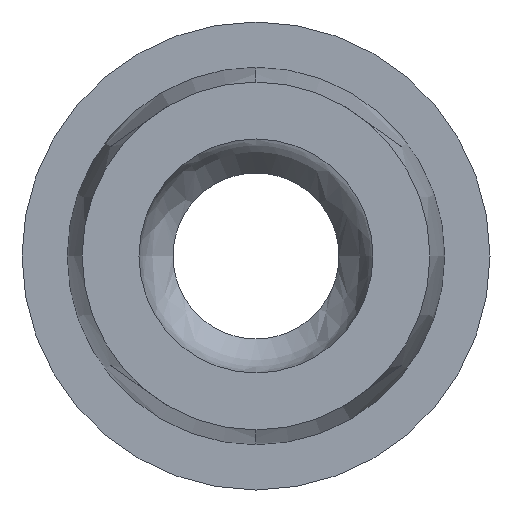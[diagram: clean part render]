
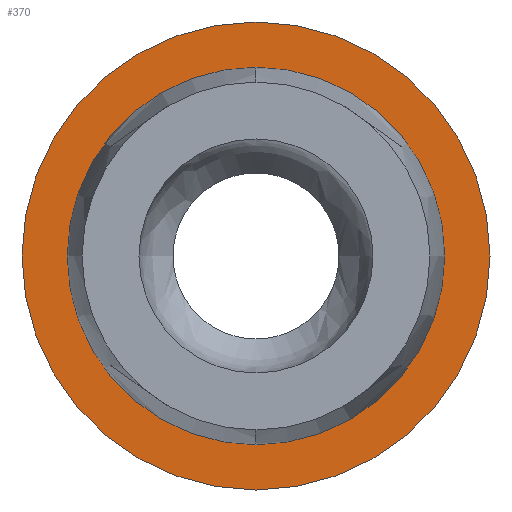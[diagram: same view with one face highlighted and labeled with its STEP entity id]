
A CAD part, left-side view. The second image highlights one B-rep face of the part: STEP entity #370.
In plain terms, the highlighted planar face has unit normal (-1, 0, 0).
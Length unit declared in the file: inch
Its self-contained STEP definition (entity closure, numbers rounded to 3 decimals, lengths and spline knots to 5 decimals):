
#7 = EDGE_CURVE ( 'NONE', #153, #327, #192, .T. ) ;
#20 = AXIS2_PLACEMENT_3D ( 'NONE', #382, #141, #424 ) ;
#24 = DIRECTION ( 'NONE',  ( -1., 0., 0. ) ) ;
#25 = ORIENTED_EDGE ( 'NONE', *, *, #7, .F. ) ;
#56 = FACE_OUTER_BOUND ( 'NONE', #63, .T. ) ;
#63 = EDGE_LOOP ( 'NONE', ( #126, #371 ) ) ;
#64 = CARTESIAN_POINT ( 'NONE',  ( -1., 0., 0.3025 ) ) ;
#67 = CIRCLE ( 'NONE', #272, 0.3025 ) ;
#78 = EDGE_CURVE ( 'NONE', #499, #491, #238, .T. ) ;
#97 = PLANE ( 'NONE',  #305 ) ;
#116 = CARTESIAN_POINT ( 'NONE',  ( -1., 0., 0. ) ) ;
#126 = ORIENTED_EDGE ( 'NONE', *, *, #78, .T. ) ;
#133 = DIRECTION ( 'NONE',  ( -1., 0., 0. ) ) ;
#134 = DIRECTION ( 'NONE',  ( 0., 0., 1. ) ) ;
#141 = DIRECTION ( 'NONE',  ( -1., 0., 0. ) ) ;
#152 = DIRECTION ( 'NONE',  ( 0., 0., 1. ) ) ;
#153 = VERTEX_POINT ( 'NONE', #64 ) ;
#160 = FACE_BOUND ( 'NONE', #331, .T. ) ;
#170 = CARTESIAN_POINT ( 'NONE',  ( -1., 0., -0.3025 ) ) ;
#192 = CIRCLE ( 'NONE', #368, 0.3025 ) ;
#207 = CIRCLE ( 'NONE', #417, 0.375 ) ;
#213 = CARTESIAN_POINT ( 'NONE',  ( -1., 0., -0.3025 ) ) ;
#220 = CARTESIAN_POINT ( 'NONE',  ( -1., 0., 0.375 ) ) ;
#238 = CIRCLE ( 'NONE', #20, 0.375 ) ;
#245 = EDGE_CURVE ( 'NONE', #491, #499, #207, .T. ) ;
#246 = ORIENTED_EDGE ( 'NONE', *, *, #394, .F. ) ;
#254 = CARTESIAN_POINT ( 'NONE',  ( -1., 0., 0. ) ) ;
#272 = AXIS2_PLACEMENT_3D ( 'NONE', #254, #24, #302 ) ;
#302 = DIRECTION ( 'NONE',  ( 0., 0., 1. ) ) ;
#304 = CARTESIAN_POINT ( 'NONE',  ( -1., 0., -0.375 ) ) ;
#305 = AXIS2_PLACEMENT_3D ( 'NONE', #213, #373, #134 ) ;
#327 = VERTEX_POINT ( 'NONE', #170 ) ;
#331 = EDGE_LOOP ( 'NONE', ( #25, #246 ) ) ;
#368 = AXIS2_PLACEMENT_3D ( 'NONE', #485, #133, #415 ) ;
#370 = ADVANCED_FACE ( 'NONE', ( #56, #160 ), #97, .T. ) ;
#371 = ORIENTED_EDGE ( 'NONE', *, *, #245, .T. ) ;
#373 = DIRECTION ( 'NONE',  ( -1., 0., 0. ) ) ;
#382 = CARTESIAN_POINT ( 'NONE',  ( -1., 0., 0. ) ) ;
#394 = EDGE_CURVE ( 'NONE', #327, #153, #67, .T. ) ;
#397 = DIRECTION ( 'NONE',  ( -1., 0., 0. ) ) ;
#415 = DIRECTION ( 'NONE',  ( 0., 0., 1. ) ) ;
#417 = AXIS2_PLACEMENT_3D ( 'NONE', #116, #397, #152 ) ;
#424 = DIRECTION ( 'NONE',  ( 0., 0., 1. ) ) ;
#485 = CARTESIAN_POINT ( 'NONE',  ( -1., 0., 0. ) ) ;
#491 = VERTEX_POINT ( 'NONE', #304 ) ;
#499 = VERTEX_POINT ( 'NONE', #220 ) ;
